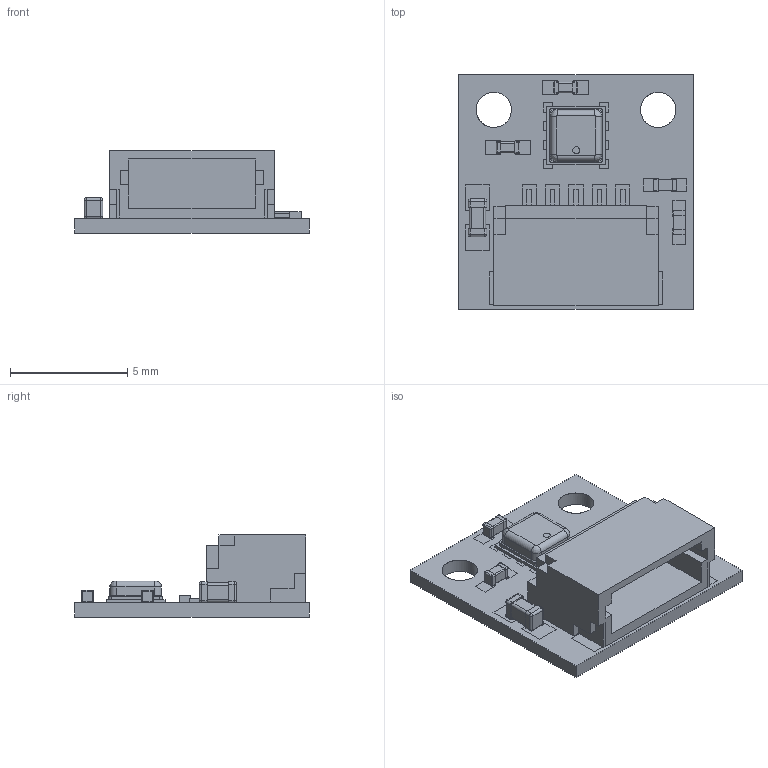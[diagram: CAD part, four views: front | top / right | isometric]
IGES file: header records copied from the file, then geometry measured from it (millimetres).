
Global section: file name: Filename.iges; native system: Open CASCADE 7.4; preprocessor: Open CASCADE IGES processor 7.4; date: 20200810.125139; units: millimetre
Bounding box: 10 x 10 x 3.5 mm (x, y, z)
Surface area: 912.4 mm2 (no closed solid volume)
Topology: 0 solids, 0 shells, 918 faces, 4960 edges, 7592 vertices
Faces by surface type: plane 714, revolution 204
